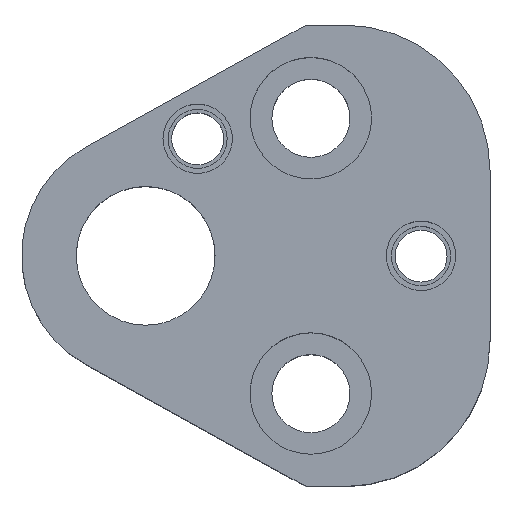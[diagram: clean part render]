
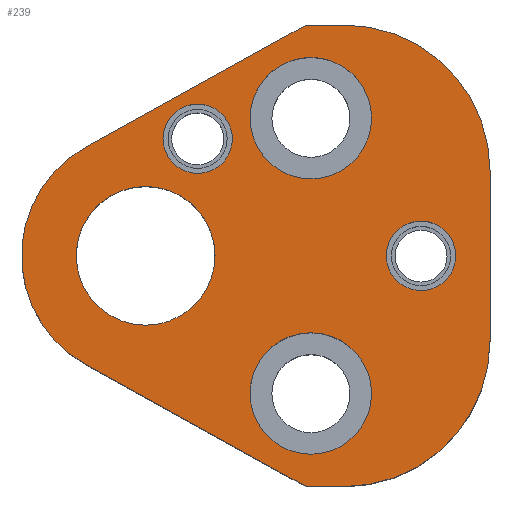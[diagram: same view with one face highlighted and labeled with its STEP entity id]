
A CAD part, top view. The second image highlights one B-rep face of the part: STEP entity #239.
In plain terms, the highlighted planar face has unit normal (0, 0, 1).
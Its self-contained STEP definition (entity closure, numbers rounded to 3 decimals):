
#113=FACE_BOUND('',#339,.T.);
#114=FACE_BOUND('',#340,.T.);
#115=FACE_BOUND('',#341,.T.);
#116=FACE_BOUND('',#342,.T.);
#117=FACE_BOUND('',#343,.T.);
#118=FACE_BOUND('',#344,.T.);
#152=CIRCLE('',#816,16.8);
#154=CIRCLE('',#820,16.8);
#157=CIRCLE('',#826,14.3);
#182=CIRCLE('',#865,4.);
#184=CIRCLE('',#868,4.);
#186=CIRCLE('',#872,4.);
#188=CIRCLE('',#875,4.);
#194=CIRCLE('',#887,7.);
#195=CIRCLE('',#888,7.);
#196=CIRCLE('',#889,7.);
#197=CIRCLE('',#890,7.);
#198=CIRCLE('',#891,8.);
#199=CIRCLE('',#892,8.);
#239=ADVANCED_FACE('',(#113,#114,#115,#116,#117,#118),#261,.T.);
#261=PLANE('',#893);
#339=EDGE_LOOP('',(#497,#498,#499,#500,#501,#502,#503,#504));
#340=EDGE_LOOP('',(#505,#506));
#341=EDGE_LOOP('',(#507,#508));
#342=EDGE_LOOP('',(#509,#510));
#343=EDGE_LOOP('',(#511,#512));
#344=EDGE_LOOP('',(#513,#514));
#497=ORIENTED_EDGE('',*,*,#626,.T.);
#498=ORIENTED_EDGE('',*,*,#630,.T.);
#499=ORIENTED_EDGE('',*,*,#633,.T.);
#500=ORIENTED_EDGE('',*,*,#636,.T.);
#501=ORIENTED_EDGE('',*,*,#639,.T.);
#502=ORIENTED_EDGE('',*,*,#642,.T.);
#503=ORIENTED_EDGE('',*,*,#645,.T.);
#504=ORIENTED_EDGE('',*,*,#648,.T.);
#505=ORIENTED_EDGE('',*,*,#703,.F.);
#506=ORIENTED_EDGE('',*,*,#704,.F.);
#507=ORIENTED_EDGE('',*,*,#705,.F.);
#508=ORIENTED_EDGE('',*,*,#706,.F.);
#509=ORIENTED_EDGE('',*,*,#693,.F.);
#510=ORIENTED_EDGE('',*,*,#689,.F.);
#511=ORIENTED_EDGE('',*,*,#687,.F.);
#512=ORIENTED_EDGE('',*,*,#683,.F.);
#513=ORIENTED_EDGE('',*,*,#707,.T.);
#514=ORIENTED_EDGE('',*,*,#708,.T.);
#560=VERTEX_POINT('',#1160);
#561=VERTEX_POINT('',#1162);
#564=VERTEX_POINT('',#1169);
#566=VERTEX_POINT('',#1175);
#568=VERTEX_POINT('',#1181);
#570=VERTEX_POINT('',#1187);
#572=VERTEX_POINT('',#1193);
#574=VERTEX_POINT('',#1199);
#599=VERTEX_POINT('',#1278);
#600=VERTEX_POINT('',#1279);
#603=VERTEX_POINT('',#1291);
#604=VERTEX_POINT('',#1292);
#611=VERTEX_POINT('',#1320);
#612=VERTEX_POINT('',#1321);
#613=VERTEX_POINT('',#1324);
#614=VERTEX_POINT('',#1325);
#615=VERTEX_POINT('',#1328);
#616=VERTEX_POINT('',#1329);
#626=EDGE_CURVE('',#561,#560,#726,.T.);
#630=EDGE_CURVE('',#560,#564,#730,.T.);
#633=EDGE_CURVE('',#564,#566,#152,.T.);
#636=EDGE_CURVE('',#566,#568,#734,.T.);
#639=EDGE_CURVE('',#568,#570,#154,.T.);
#642=EDGE_CURVE('',#570,#572,#738,.T.);
#645=EDGE_CURVE('',#572,#574,#741,.T.);
#648=EDGE_CURVE('',#574,#561,#157,.T.);
#683=EDGE_CURVE('',#599,#600,#182,.T.);
#687=EDGE_CURVE('',#600,#599,#184,.T.);
#689=EDGE_CURVE('',#603,#604,#186,.T.);
#693=EDGE_CURVE('',#604,#603,#188,.T.);
#703=EDGE_CURVE('',#611,#612,#194,.T.);
#704=EDGE_CURVE('',#612,#611,#195,.T.);
#705=EDGE_CURVE('',#613,#614,#196,.T.);
#706=EDGE_CURVE('',#614,#613,#197,.T.);
#707=EDGE_CURVE('',#615,#616,#198,.T.);
#708=EDGE_CURVE('',#616,#615,#199,.T.);
#726=LINE('',#1161,#770);
#730=LINE('',#1170,#774);
#734=LINE('',#1182,#778);
#738=LINE('',#1194,#782);
#741=LINE('',#1200,#785);
#770=VECTOR('',#916,1.);
#774=VECTOR('',#922,1.);
#778=VECTOR('',#934,1.);
#782=VECTOR('',#946,1.);
#785=VECTOR('',#951,1.);
#816=AXIS2_PLACEMENT_3D('',#1176,#927,#928);
#820=AXIS2_PLACEMENT_3D('',#1188,#939,#940);
#826=AXIS2_PLACEMENT_3D('',#1204,#957,#958);
#865=AXIS2_PLACEMENT_3D('',#1277,#1045,#1046);
#868=AXIS2_PLACEMENT_3D('',#1286,#1053,#1054);
#872=AXIS2_PLACEMENT_3D('',#1290,#1061,#1062);
#875=AXIS2_PLACEMENT_3D('',#1299,#1069,#1070);
#887=AXIS2_PLACEMENT_3D('',#1319,#1097,#1098);
#888=AXIS2_PLACEMENT_3D('',#1322,#1099,#1100);
#889=AXIS2_PLACEMENT_3D('',#1323,#1101,#1102);
#890=AXIS2_PLACEMENT_3D('',#1326,#1103,#1104);
#891=AXIS2_PLACEMENT_3D('',#1327,#1105,#1106);
#892=AXIS2_PLACEMENT_3D('',#1330,#1107,#1108);
#893=AXIS2_PLACEMENT_3D('',#1331,#1109,#1110);
#916=DIRECTION('',(0.875,-0.485,0.));
#922=DIRECTION('',(1.,0.,0.));
#927=DIRECTION('',(0.,0.,1.));
#928=DIRECTION('',(-0.707,0.707,0.));
#934=DIRECTION('',(0.,1.,0.));
#939=DIRECTION('',(0.,0.,1.));
#940=DIRECTION('',(-0.707,-0.707,0.));
#946=DIRECTION('',(-1.,0.,0.));
#951=DIRECTION('',(-0.875,-0.485,0.));
#957=DIRECTION('',(0.,0.,1.));
#958=DIRECTION('',(1.,0.,0.));
#1045=DIRECTION('',(0.,0.,1.));
#1046=DIRECTION('',(-1.,0.,0.));
#1053=DIRECTION('',(0.,0.,1.));
#1054=DIRECTION('',(1.,0.,0.));
#1061=DIRECTION('',(0.,0.,1.));
#1062=DIRECTION('',(-1.,0.,0.));
#1069=DIRECTION('',(0.,0.,1.));
#1070=DIRECTION('',(1.,0.,0.));
#1097=DIRECTION('',(0.,0.,1.));
#1098=DIRECTION('',(1.,0.,0.));
#1099=DIRECTION('',(0.,0.,1.));
#1100=DIRECTION('',(-1.,0.,0.));
#1101=DIRECTION('',(0.,0.,1.));
#1102=DIRECTION('',(1.,0.,0.));
#1103=DIRECTION('',(0.,0.,1.));
#1104=DIRECTION('',(-1.,0.,0.));
#1105=DIRECTION('',(0.,0.,-1.));
#1106=DIRECTION('',(-1.,0.,0.));
#1107=DIRECTION('',(0.,0.,-1.));
#1108=DIRECTION('',(1.,0.,0.));
#1109=DIRECTION('',(0.,0.,1.));
#1110=DIRECTION('',(-0.875,0.485,0.));
#1160=CARTESIAN_POINT('',(18.492,-26.6,25.));
#1161=CARTESIAN_POINT('',(18.492,-26.6,25.));
#1162=CARTESIAN_POINT('',(-6.933,-12.507,25.));
#1169=CARTESIAN_POINT('',(22.9,-26.6,25.));
#1170=CARTESIAN_POINT('',(18.492,-26.6,25.));
#1175=CARTESIAN_POINT('',(39.7,-9.8,25.));
#1176=CARTESIAN_POINT('',(22.9,-9.8,25.));
#1181=CARTESIAN_POINT('',(39.7,9.8,25.));
#1182=CARTESIAN_POINT('',(39.7,9.8,25.));
#1187=CARTESIAN_POINT('',(22.9,26.6,25.));
#1188=CARTESIAN_POINT('',(22.9,9.8,25.));
#1193=CARTESIAN_POINT('',(18.492,26.6,25.));
#1194=CARTESIAN_POINT('',(18.492,26.6,25.));
#1199=CARTESIAN_POINT('',(-6.933,12.507,25.));
#1200=CARTESIAN_POINT('',(18.492,26.6,25.));
#1204=CARTESIAN_POINT('',(0.,0.,25.));
#1277=CARTESIAN_POINT('',(6.,13.5,25.));
#1278=CARTESIAN_POINT('',(6.,9.5,25.));
#1279=CARTESIAN_POINT('',(6.,17.5,25.));
#1286=CARTESIAN_POINT('',(6.,13.5,25.));
#1290=CARTESIAN_POINT('',(31.75,0.,25.));
#1291=CARTESIAN_POINT('',(31.75,-4.,25.));
#1292=CARTESIAN_POINT('',(31.75,4.,25.));
#1299=CARTESIAN_POINT('',(31.75,0.,25.));
#1319=CARTESIAN_POINT('',(19.05,15.87,25.));
#1320=CARTESIAN_POINT('',(19.05,22.87,25.));
#1321=CARTESIAN_POINT('',(19.05,8.87,25.));
#1322=CARTESIAN_POINT('',(19.05,15.87,25.));
#1323=CARTESIAN_POINT('',(19.05,-15.87,25.));
#1324=CARTESIAN_POINT('',(19.05,-8.87,25.));
#1325=CARTESIAN_POINT('',(19.05,-22.87,25.));
#1326=CARTESIAN_POINT('',(19.05,-15.87,25.));
#1327=CARTESIAN_POINT('',(0.,0.,25.));
#1328=CARTESIAN_POINT('',(0.,8.,25.));
#1329=CARTESIAN_POINT('',(0.,-8.,25.));
#1330=CARTESIAN_POINT('',(0.,0.,25.));
#1331=CARTESIAN_POINT('',(-6.933,-12.507,25.));
